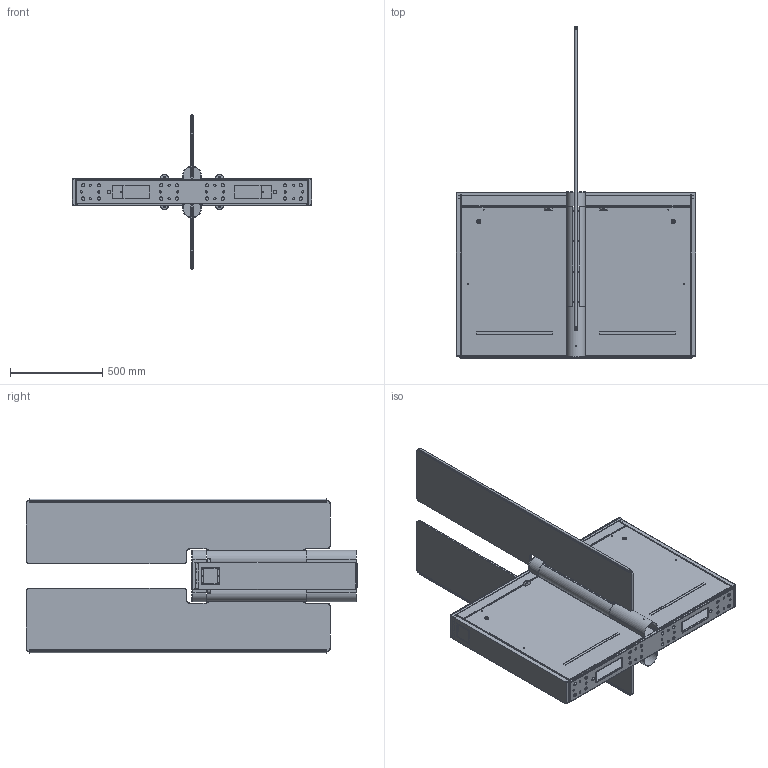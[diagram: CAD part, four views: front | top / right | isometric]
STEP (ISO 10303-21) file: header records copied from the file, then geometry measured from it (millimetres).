
FILE_DESCRIPTION (( 'STEP AP214' ), '1' );
FILE_NAME ('スターン_センター【標準標準】.STEP', '2023-02-27T02:35:32', ( 'cadcl' ), ( 'Hewlett-Packard Company' ), 'SwSTEP 2.0', 'SolidWorks 2022', '' );
FILE_SCHEMA (( 'AUTOMOTIVE_DESIGN' ));
Length unit declared in the file: millimetre
Products named in the file (40): 201-06327-49; 201-06505-48; 201-06327-54; T05-00009-00; 201-06327-48; 201-06505-08_閉扉; 201-06327-62; 201-06327-78_施錠; 201-06329-11; 201-06329-10; 201-06329-00; 201-06327-73_展開用; R33-00022-00_干渉回避用; 201-06327-66; 201-06327-61; 201-06327-22; 201-06206-03_ガラス（ｔ１２）取付時; 201-06327-72_施錠; 201-06327-59; Z01-00712-00; 301-06197-17_施錠; 201-06327-55; 201-06329-09; 201-06327-21; スターン_センター【標準標準】; 201-06327-51; 201-05997-02; 201-06327-81; 201-06327-79; 201-06327-00; 301-06197-18_施錠; 201-06327-46; 201-06290-15_面発光あり; 201-06290-16; 201-06327-13; Z01-00419-00; 201-06327-86; 201-06290-02; R33-00101-00_干渉回避用
Assembly tree (70 placements, depth 4):
  201-06505-48
  R33-00022-00_干渉回避用
  スターン_センター【標準標準】
    201-06505-08_閉扉
      201-06327-13
        201-06327-00
      201-06327-48  x2
        201-06327-46
        201-06329-09
      201-06327-51  x2
        201-06327-49
        201-06329-09
      201-06327-72_施錠  x2
        201-06327-66
        201-06329-11
        201-06329-10
        301-06197-17_施錠
        T05-00009-00
        Z01-00419-00
      201-06327-78_施錠  x2
        201-06329-11
        201-06329-10
        301-06197-18_施錠
        Z01-00419-00
        T05-00009-00
      201-06327-81
        201-06327-79
      201-06327-21  x2
      201-06327-22  x2
      201-06327-54  x2
      201-06327-55  x2
      Z01-00712-00  x8
    201-06327-59  x2
      201-06290-02
    201-06327-61  x2
      201-05997-02
    201-06327-62  x2
    201-06329-00  x2
    201-06206-03_ガラス（ｔ１２）取付時  x2
    Z01-00712-00  x8
    201-06327-86  x2
      201-06290-16
        201-06290-15_面発光あり
    201-06327-73_展開用  x2
  R33-00101-00_干渉回避用
Bounding box: 1300 x 1799.75 x 836.34 mm (x, y, z)
Volume: 19392694.2 mm3; surface area: 9743948.1 mm2
Topology: 70 solids, 70 shells, 3291 faces, 8334 edges, 5245 vertices
Faces by surface type: plane 1832, cylinder 1119, cone 218, bspline 98, sphere 24
Entity records: 56204 total; most frequent: CARTESIAN_POINT 11751, ORIENTED_EDGE 8878, DIRECTION 8763, EDGE_CURVE 4439, VECTOR 3077, LINE 3077, AXIS2_PLACEMENT_3D 2843, VERTEX_POINT 2803
